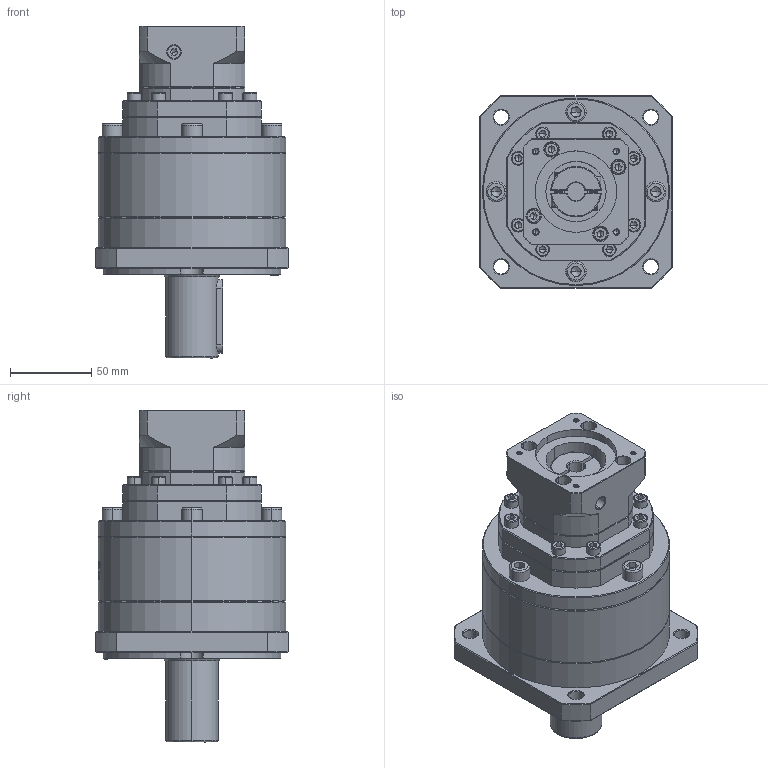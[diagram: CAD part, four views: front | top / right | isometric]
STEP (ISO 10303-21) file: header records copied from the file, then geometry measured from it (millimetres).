
FILE_DESCRIPTION (( 'STEP AP214' ), '1' );
FILE_NAME ('ZF120A-D32-L3-P2-11-50-70-M4.step', '2023-08-27T06:30:22', ( '' ), ( '' ), 'SwSTEP 2.0', 'SolidWorks 2016', '' );
FILE_SCHEMA (( 'AUTOMOTIVE_DESIGN' ));
Length unit declared in the file: millimetre
Products named in the file (1): ZF120A-D32-L3-P2-11-50-70-M4
Bounding box: 118 x 118 x 204 mm (x, y, z)
Volume: 1226397.5 mm3; surface area: 117702.3 mm2
Topology: 7 solids, 7 shells, 2346 faces, 6251 edges, 4015 vertices
Faces by surface type: plane 1179, bspline 435, cylinder 411, cone 299, torus 22
Entity records: 123006 total; most frequent: CARTESIAN_POINT 44166, ORIENTED_EDGE 12394, DIRECTION 9184, EDGE_CURVE 6197, VERTEX_POINT 4015, VECTOR 3310, LINE 3310, AXIS2_PLACEMENT_3D 2937
